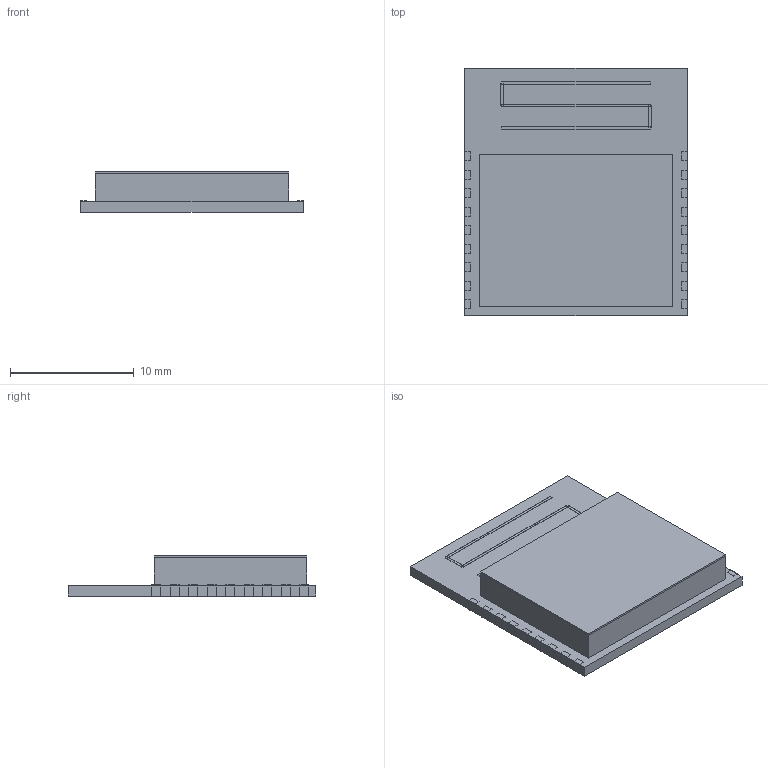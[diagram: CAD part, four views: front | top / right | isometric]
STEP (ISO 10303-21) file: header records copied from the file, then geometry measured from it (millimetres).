
FILE_DESCRIPTION(('FreeCAD Model'),'2;1');
FILE_NAME('Open CASCADE Shape Model','2026-09-23T12:07:02',('FreeCAD'),( 'FreeCAD'),'Open CASCADE STEP processor 7.8','FreeCAD','Unknown');
FILE_SCHEMA(('AUTOMOTIVE_DESIGN { 1 0 10303 214 1 1 1 1 }'));
Length unit declared in the file: millimetre
Products named in the file (1): Open CASCADE STEP translator 7.8 37
Bounding box: 18 x 20 x 3.29 mm (x, y, z)
Volume: 784.7 mm3; surface area: 1766.7 mm2
Topology: 26 solids, 26 shells, 156 faces, 312 edges, 208 vertices
Faces by surface type: plane 156
Entity records: 3916 total; most frequent: CARTESIAN_POINT 677, DIRECTION 626, ORIENTED_EDGE 624, EDGE_CURVE 312, LINE 312, VECTOR 312, VERTEX_POINT 208, AXIS2_PLACEMENT_3D 157
